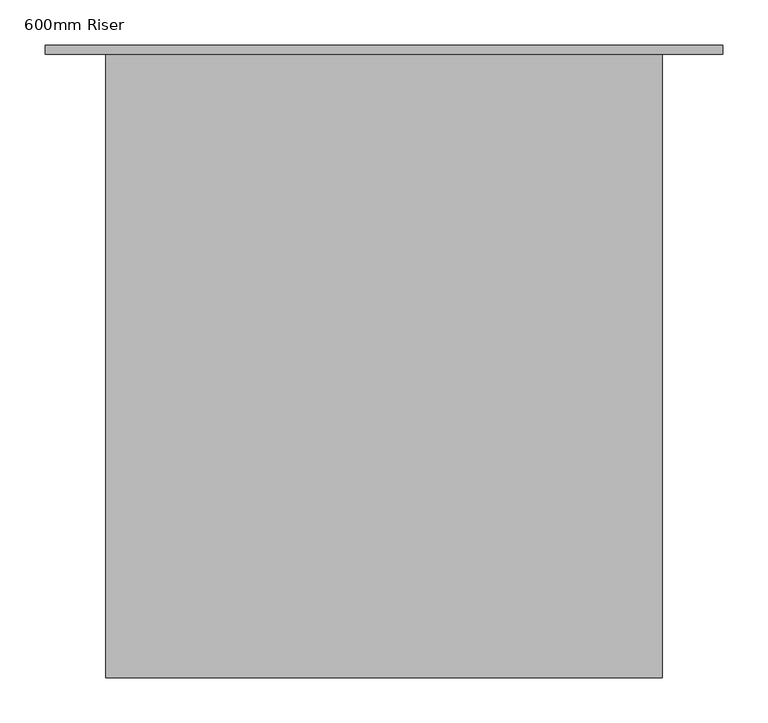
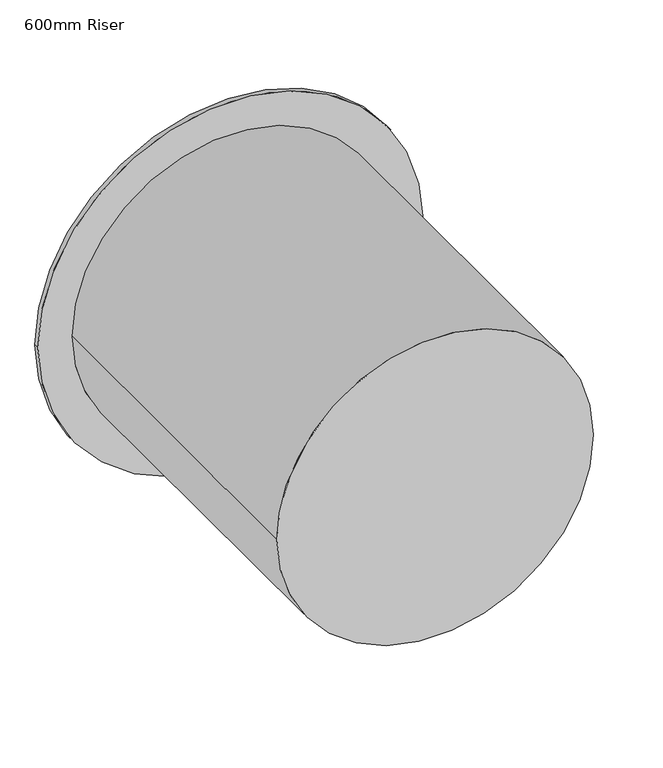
"""IFC4 building model written with IfcOpenShell, lengths in millimetres: proxy geometry, 600mm Riser."""

from ifc_helpers import new_model, si_unit, frame, origin, place, context, project, spatial, circle_curve, source, transform, mapped, element, save
from ifc_brep_helpers import plane_surface, cylinder_surface, advanced_brep


def proxy_600mm_riser_a8db4c80(model_context):
    return source(origin(), model_context, "Body", "AdvancedBrep", [
        advanced_brep(
        [(-375.0, 2490.0, 0.0), (-375.0, 2500.0, 0.0), (375.0, 2500.0, 0.0), (375.0, 2490.0, 0.0), (-308.0, 1800.0, 0.0), (-308.0, 2490.0, 0.0), (308.0, 2490.0, 0.0), (308.0, 1800.0, 0.0), (-197.9049896, 1800.0, 236.0034218)],
        [
            (0, 1),
            (1, 2, circle_curve(frame((0.0, 2500.0, 0.0), z_axis=(0.0, -1.0, 0.0), x_axis=(-1.0, 0.0, 0.0)), 375.0)),
            (2, 3),
            (3, 0, circle_curve(frame((0.0, 2490.0, 0.0), z_axis=(0.0, 1.0, 0.0), x_axis=(-1.0, 0.0, 0.0)), 375.0)),
            (4, 5),
            (5, 6, circle_curve(frame((0.0, 2490.0, 0.0), z_axis=(0.0, -1.0, 0.0), x_axis=(-1.0, 0.0, 0.0)), 308.0)),
            (6, 7),
            (7, 4, circle_curve(frame((0.0, 1800.0, 0.0), z_axis=(0.0, 1.0, 0.0), x_axis=(-1.0, 0.0, 0.0)), 308.0)),
            (1, 2, circle_curve(frame((0.0, 2500.0, 0.0), z_axis=(0.0, 1.0, 0.0), x_axis=(-1.0, 0.0, 0.0)), 375.0)),
            (7, 8, circle_curve(frame((0.0, 1800.0, 0.0), z_axis=(0.0, -1.0, 0.0), x_axis=(-1.0, 0.0, 0.0)), 308.0)),
            (8, 4, circle_curve(frame((0.0, 1800.0, 0.0), z_axis=(0.0, -1.0, 0.0), x_axis=(-1.0, 0.0, 0.0)), 308.0)),
            (6, 5, circle_curve(frame((0.0, 2490.0, 0.0), z_axis=(0.0, -1.0, 0.0), x_axis=(-1.0, 0.0, 0.0)), 308.0)),
            (3, 0, circle_curve(frame((0.0, 2490.0, 0.0), z_axis=(0.0, -1.0, 0.0), x_axis=(-1.0, 0.0, 0.0)), 375.0)),
        ],
        [
            cylinder_surface(frame((0.0, 2495.0, 0.0), z_axis=(0.0, 1.0, 0.0), x_axis=(-1.0, 0.0, 0.0)), 375.0),
            cylinder_surface(frame((0.0, 1245.0, 0.0), z_axis=(0.0, 1.0, 0.0), x_axis=(-1.0, 0.0, 0.0)), 308.0),
            plane_surface(frame((-300.0, 2500.0, 0.0), z_axis=(0.0, 1.0, 0.0), x_axis=(0.0, 0.0, 1.0))),
            plane_surface(frame((0.0, 1800.0, 0.0), z_axis=(0.0, -1.0, 0.0), x_axis=(0.7662448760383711, 0.0, 0.6425486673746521))),
            plane_surface(frame((-375.0, 2490.0, 0.0), z_axis=(0.0, -1.0, 0.0), x_axis=(0.0, 0.0, -1.0))),
        ],
        [
            (0, [[1, 2, 3, 4]]),
            (1, [[5, 6, 7, 8]]),
            (2, [[9, -2]]),
            (3, [[10, 11, -8]]),
            (1, [[-5, -11, -10, -7, 12]]),
            (4, [[13, -4], [-12, -6]]),
            (0, [[-1, -13, -3, -9]]),
        ],
    ),
    ])


if __name__ == "__main__":
    model = new_model("IFC4")
    model_context = context("Model", 3, world=origin())
    ifc_project = project(units=[si_unit("LENGTHUNIT", "METRE", prefix="MILLI")], contexts=[model_context])
    site = spatial("IfcSite", under=ifc_project)
    building = spatial("IfcBuilding", under=site)
    placement = place(None, origin())
    proxy_600mm_riser_shape = proxy_600mm_riser_a8db4c80(model_context)
    element("IfcBuildingElementProxy", 1, Name="600mm Riser", ObjectType="600mm Riser", at=placement, inside=building, context=model_context, shape_type="MappedRepresentation", body=[
        mapped(proxy_600mm_riser_shape, transform((0.0, 0.0, 0.0), x_axis=(1.0, 0.0, 0.0), y_axis=(0.0, 1.0, 0.0), z_axis=(0.0, 0.0, 1.0))),
    ])
    save(model, "model.ifc")
